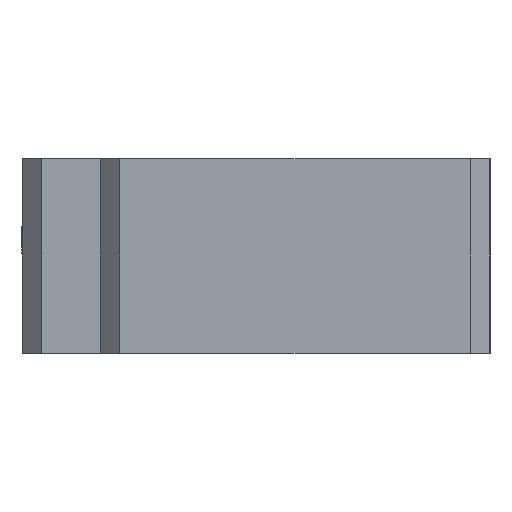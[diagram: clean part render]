
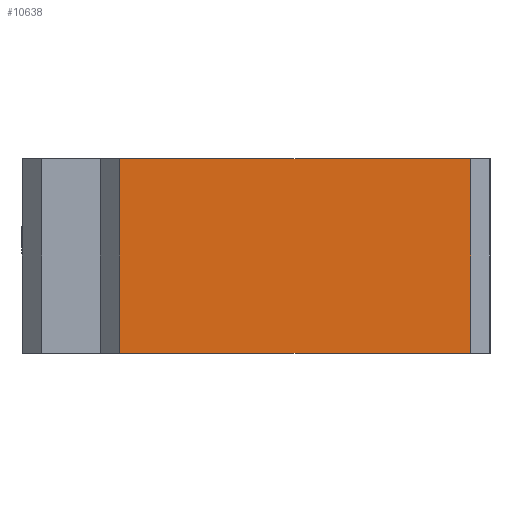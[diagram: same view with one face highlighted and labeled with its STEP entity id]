
A CAD part, left-side view. The second image highlights one B-rep face of the part: STEP entity #10638.
In plain terms, the highlighted planar face has unit normal (-1, 0, 0).
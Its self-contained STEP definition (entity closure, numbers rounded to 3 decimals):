
#867 = VERTEX_POINT ( 'NONE', #10893 ) ;
#935 = EDGE_CURVE ( 'NONE', #10586, #13533, #14971, .T. ) ;
#2876 = DIRECTION ( 'NONE',  ( 1., 0., 0. ) ) ;
#4553 = VERTEX_POINT ( 'NONE', #10071 ) ;
#4720 = EDGE_CURVE ( 'NONE', #4553, #867, #7070, .T. ) ;
#4740 = LINE ( 'NONE', #14990, #5276 ) ;
#5276 = VECTOR ( 'NONE', #11685, 1000. ) ;
#6199 = EDGE_CURVE ( 'NONE', #13533, #4553, #7802, .T. ) ;
#6840 = ORIENTED_EDGE ( 'NONE', *, *, #4720, .F. ) ;
#7070 = LINE ( 'NONE', #15831, #7828 ) ;
#7802 = LINE ( 'NONE', #12680, #22141 ) ;
#7828 = VECTOR ( 'NONE', #14001, 1000. ) ;
#10071 = CARTESIAN_POINT ( 'NONE',  ( -114.277, 33.694, 10. ) ) ;
#10586 = VERTEX_POINT ( 'NONE', #20201 ) ;
#10638 = ADVANCED_FACE ( 'NONE', ( #11742 ), #17006, .F. ) ;
#10893 = CARTESIAN_POINT ( 'NONE',  ( -114.277, -2.306, 10. ) ) ;
#11685 = DIRECTION ( 'NONE',  ( 0., 0., -1. ) ) ;
#11742 = FACE_OUTER_BOUND ( 'NONE', #12457, .T. ) ;
#12457 = EDGE_LOOP ( 'NONE', ( #6840, #16248, #14363, #13820 ) ) ;
#12680 = CARTESIAN_POINT ( 'NONE',  ( -114.277, 33.694, 10. ) ) ;
#12797 = DIRECTION ( 'NONE',  ( 0., 0., 1. ) ) ;
#13533 = VERTEX_POINT ( 'NONE', #17072 ) ;
#13820 = ORIENTED_EDGE ( 'NONE', *, *, #17534, .F. ) ;
#14001 = DIRECTION ( 'NONE',  ( 0., -1., 0. ) ) ;
#14224 = AXIS2_PLACEMENT_3D ( 'NONE', #15055, #2876, #20321 ) ;
#14363 = ORIENTED_EDGE ( 'NONE', *, *, #935, .F. ) ;
#14971 = LINE ( 'NONE', #21618, #19836 ) ;
#14990 = CARTESIAN_POINT ( 'NONE',  ( -114.277, -2.306, 10. ) ) ;
#15055 = CARTESIAN_POINT ( 'NONE',  ( -114.277, -2.306, 10. ) ) ;
#15088 = DIRECTION ( 'NONE',  ( 0., 1., 0. ) ) ;
#15831 = CARTESIAN_POINT ( 'NONE',  ( -114.277, -2.306, 10. ) ) ;
#16248 = ORIENTED_EDGE ( 'NONE', *, *, #6199, .F. ) ;
#17006 = PLANE ( 'NONE',  #14224 ) ;
#17072 = CARTESIAN_POINT ( 'NONE',  ( -114.277, 33.694, -10. ) ) ;
#17534 = EDGE_CURVE ( 'NONE', #867, #10586, #4740, .T. ) ;
#19836 = VECTOR ( 'NONE', #15088, 1000. ) ;
#20201 = CARTESIAN_POINT ( 'NONE',  ( -114.277, -2.306, -10. ) ) ;
#20321 = DIRECTION ( 'NONE',  ( 0., 1., 0. ) ) ;
#21618 = CARTESIAN_POINT ( 'NONE',  ( -114.277, 43.694, -10. ) ) ;
#22141 = VECTOR ( 'NONE', #12797, 1000. ) ;
